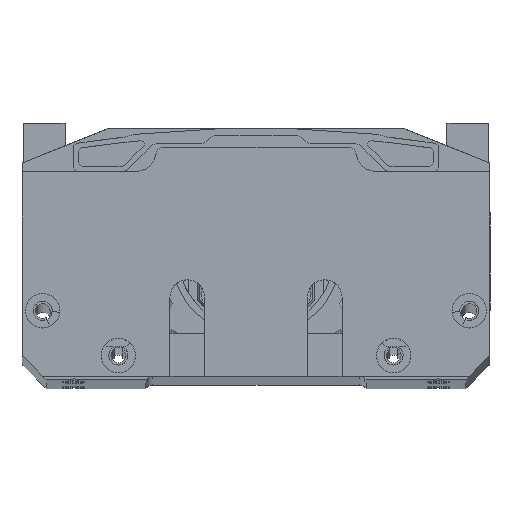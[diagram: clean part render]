
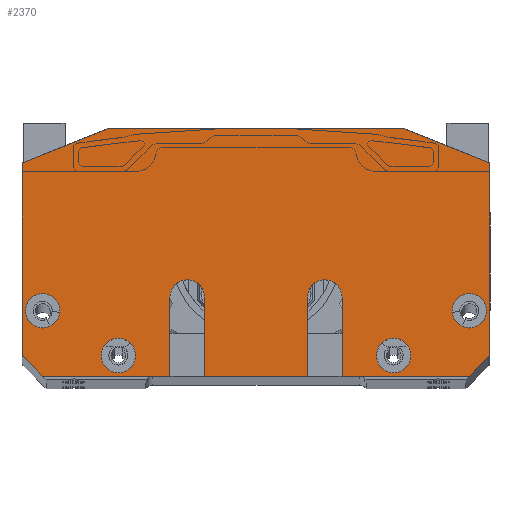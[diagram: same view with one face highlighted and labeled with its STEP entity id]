
A CAD part, top view. The second image highlights one B-rep face of the part: STEP entity #2370.
In plain terms, the highlighted planar face has unit normal (0, 0, 1).
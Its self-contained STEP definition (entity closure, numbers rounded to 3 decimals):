
#2370=ADVANCED_FACE('9',(#3475,#3476,#3477,#3478,#3479),#3051,.T.);
#3051=PLANE('',#19905);
#3475=FACE_BOUND('',#4515,.T.);
#3476=FACE_BOUND('',#4516,.T.);
#3477=FACE_BOUND('',#4517,.T.);
#3478=FACE_BOUND('',#4518,.T.);
#3479=FACE_BOUND('',#4519,.T.);
#4515=EDGE_LOOP('',(#9192,#9193,#9194,#9195,#9196,#9197,#9198,#9199,#9200,
#9201,#9202,#9203,#9204,#9205,#9206,#9207));
#4516=EDGE_LOOP('',(#9208));
#4517=EDGE_LOOP('',(#9209));
#4518=EDGE_LOOP('',(#9210));
#4519=EDGE_LOOP('',(#9211));
#5755=CIRCLE('',#19864,5.);
#5757=CIRCLE('',#19869,5.);
#5775=CIRCLE('',#19901,5.);
#5776=CIRCLE('',#19902,5.);
#5777=CIRCLE('',#19903,5.);
#5778=CIRCLE('',#19904,5.);
#9192=ORIENTED_EDGE('',*,*,#15148,.T.);
#9193=ORIENTED_EDGE('',*,*,#15150,.T.);
#9194=ORIENTED_EDGE('',*,*,#15144,.T.);
#9195=ORIENTED_EDGE('',*,*,#14250,.F.);
#9196=ORIENTED_EDGE('',*,*,#15156,.T.);
#9197=ORIENTED_EDGE('',*,*,#15158,.T.);
#9198=ORIENTED_EDGE('',*,*,#15152,.T.);
#9199=ORIENTED_EDGE('',*,*,#14247,.F.);
#9200=ORIENTED_EDGE('',*,*,#14264,.T.);
#9201=ORIENTED_EDGE('',*,*,#14278,.F.);
#9202=ORIENTED_EDGE('',*,*,#15167,.T.);
#9203=ORIENTED_EDGE('',*,*,#15189,.F.);
#9204=ORIENTED_EDGE('',*,*,#15170,.T.);
#9205=ORIENTED_EDGE('',*,*,#14192,.F.);
#9206=ORIENTED_EDGE('',*,*,#14235,.T.);
#9207=ORIENTED_EDGE('',*,*,#14253,.F.);
#9208=ORIENTED_EDGE('',*,*,#15190,.F.);
#9209=ORIENTED_EDGE('',*,*,#15191,.F.);
#9210=ORIENTED_EDGE('',*,*,#15192,.F.);
#9211=ORIENTED_EDGE('',*,*,#15193,.F.);
#12143=VERTEX_POINT('',#28827);
#12144=VERTEX_POINT('',#28829);
#12172=VERTEX_POINT('',#28908);
#12178=VERTEX_POINT('',#28929);
#12179=VERTEX_POINT('',#28931);
#12180=VERTEX_POINT('',#28934);
#12181=VERTEX_POINT('',#28936);
#12182=VERTEX_POINT('',#28939);
#12189=VERTEX_POINT('',#28960);
#12199=VERTEX_POINT('',#28986);
#12738=VERTEX_POINT('',#32555);
#12740=VERTEX_POINT('',#32561);
#12742=VERTEX_POINT('',#32570);
#12744=VERTEX_POINT('',#32576);
#12753=VERTEX_POINT('',#32601);
#12755=VERTEX_POINT('',#32607);
#12765=VERTEX_POINT('',#32647);
#12766=VERTEX_POINT('',#32649);
#12767=VERTEX_POINT('',#32651);
#12768=VERTEX_POINT('',#32653);
#14192=EDGE_CURVE('',#12143,#12144,#16395,.T.);
#14235=EDGE_CURVE('',#12143,#12172,#16428,.T.);
#14247=EDGE_CURVE('',#12178,#12179,#16439,.T.);
#14250=EDGE_CURVE('',#12180,#12181,#16442,.T.);
#14253=EDGE_CURVE('',#12182,#12172,#16445,.T.);
#14264=EDGE_CURVE('',#12178,#12189,#16455,.T.);
#14278=EDGE_CURVE('',#12199,#12189,#16467,.T.);
#15144=EDGE_CURVE('',#12738,#12181,#16894,.T.);
#15148=EDGE_CURVE('',#12182,#12740,#16898,.T.);
#15150=EDGE_CURVE('',#12740,#12738,#5755,.T.);
#15152=EDGE_CURVE('',#12742,#12179,#16900,.T.);
#15156=EDGE_CURVE('',#12180,#12744,#16904,.T.);
#15158=EDGE_CURVE('',#12744,#12742,#5757,.T.);
#15167=EDGE_CURVE('',#12199,#12753,#16909,.T.);
#15170=EDGE_CURVE('',#12755,#12144,#16912,.T.);
#15189=EDGE_CURVE('',#12755,#12753,#16918,.T.);
#15190=EDGE_CURVE('',#12765,#12765,#5775,.T.);
#15191=EDGE_CURVE('',#12766,#12766,#5776,.T.);
#15192=EDGE_CURVE('',#12767,#12767,#5777,.T.);
#15193=EDGE_CURVE('',#12768,#12768,#5778,.T.);
#16395=LINE('',#28828,#17745);
#16428=LINE('',#28909,#17778);
#16439=LINE('',#28930,#17789);
#16442=LINE('',#28935,#17792);
#16445=LINE('',#28940,#17795);
#16455=LINE('',#28961,#17805);
#16467=LINE('',#28987,#17817);
#16894=LINE('',#32554,#18244);
#16898=LINE('',#32562,#18248);
#16900=LINE('',#32569,#18250);
#16904=LINE('',#32577,#18254);
#16909=LINE('',#32600,#18259);
#16912=LINE('',#32606,#18262);
#16918=LINE('',#32645,#18268);
#17745=VECTOR('',#21961,1.);
#17778=VECTOR('',#22032,1.);
#17789=VECTOR('',#22051,1.);
#17792=VECTOR('',#22054,1.);
#17795=VECTOR('',#22057,1.);
#17805=VECTOR('',#22075,1.);
#17817=VECTOR('',#22095,1.);
#18244=VECTOR('',#23854,1.);
#18248=VECTOR('',#23860,1.);
#18250=VECTOR('',#23870,1.);
#18254=VECTOR('',#23876,1.);
#18259=VECTOR('',#23901,1.);
#18262=VECTOR('',#23906,1.);
#18268=VECTOR('',#23958,1.);
#19864=AXIS2_PLACEMENT_3D('',#32565,#23865,#23866);
#19869=AXIS2_PLACEMENT_3D('',#32580,#23881,#23882);
#19901=AXIS2_PLACEMENT_3D('',#32646,#23959,#23960);
#19902=AXIS2_PLACEMENT_3D('',#32648,#23961,#23962);
#19903=AXIS2_PLACEMENT_3D('',#32650,#23963,#23964);
#19904=AXIS2_PLACEMENT_3D('',#32652,#23965,#23966);
#19905=AXIS2_PLACEMENT_3D('',#32654,#23967,#23968);
#21961=DIRECTION('',(0.,1.,0.));
#22032=DIRECTION('',(0.707,-0.707,0.));
#22051=DIRECTION('',(-1.,0.,0.));
#22054=DIRECTION('',(-1.,0.,0.));
#22057=DIRECTION('',(-1.,0.,0.));
#22075=DIRECTION('',(0.707,0.707,0.));
#22095=DIRECTION('',(0.,-1.,0.));
#23854=DIRECTION('',(0.,-1.,0.));
#23860=DIRECTION('',(0.,1.,0.));
#23865=DIRECTION('',(0.,0.,-1.));
#23866=DIRECTION('',(1.,0.,0.));
#23870=DIRECTION('',(0.,-1.,0.));
#23876=DIRECTION('',(0.,1.,0.));
#23881=DIRECTION('',(0.,0.,-1.));
#23882=DIRECTION('',(-1.,0.,0.));
#23901=DIRECTION('',(-0.928,0.371,0.));
#23906=DIRECTION('',(-0.928,-0.371,0.));
#23958=DIRECTION('',(1.,0.,0.));
#23959=DIRECTION('',(0.,0.,1.));
#23960=DIRECTION('',(1.,0.,0.));
#23961=DIRECTION('',(0.,0.,1.));
#23962=DIRECTION('',(1.,0.,0.));
#23963=DIRECTION('',(0.,0.,1.));
#23964=DIRECTION('',(1.,0.,0.));
#23965=DIRECTION('',(0.,0.,1.));
#23966=DIRECTION('',(1.,0.,0.));
#23967=DIRECTION('',(0.,0.,1.));
#23968=DIRECTION('',(-1.,0.,0.));
#28827=CARTESIAN_POINT('',(-68.,6.,382.));
#28828=CARTESIAN_POINT('',(-68.,0.,382.));
#28829=CARTESIAN_POINT('',(-68.,62.,382.));
#28908=CARTESIAN_POINT('',(-62.,0.,382.));
#28909=CARTESIAN_POINT('',(-49.,-13.,382.));
#28929=CARTESIAN_POINT('',(62.,0.,382.));
#28930=CARTESIAN_POINT('',(68.,0.,382.));
#28931=CARTESIAN_POINT('',(25.,0.,382.));
#28934=CARTESIAN_POINT('',(15.,0.,382.));
#28935=CARTESIAN_POINT('',(68.,0.,382.));
#28936=CARTESIAN_POINT('',(-15.,0.,382.));
#28939=CARTESIAN_POINT('',(-25.,0.,382.));
#28940=CARTESIAN_POINT('',(68.,0.,382.));
#28960=CARTESIAN_POINT('',(68.,6.,382.));
#28961=CARTESIAN_POINT('',(49.,-13.,382.));
#28986=CARTESIAN_POINT('',(68.,62.,382.));
#28987=CARTESIAN_POINT('',(68.,0.,382.));
#32554=CARTESIAN_POINT('',(-15.,23.,382.));
#32555=CARTESIAN_POINT('',(-15.,23.,382.));
#32561=CARTESIAN_POINT('',(-25.,23.,382.));
#32562=CARTESIAN_POINT('',(-25.,23.,382.));
#32565=CARTESIAN_POINT('',(-20.,23.,382.));
#32569=CARTESIAN_POINT('',(25.,23.,382.));
#32570=CARTESIAN_POINT('',(25.,23.,382.));
#32576=CARTESIAN_POINT('',(15.,23.,382.));
#32577=CARTESIAN_POINT('',(15.,23.,382.));
#32580=CARTESIAN_POINT('',(20.,23.,382.));
#32600=CARTESIAN_POINT('',(18.345,81.862,382.));
#32601=CARTESIAN_POINT('',(43.,72.,382.));
#32606=CARTESIAN_POINT('',(-18.345,81.862,382.));
#32607=CARTESIAN_POINT('',(-43.,72.,382.));
#32645=CARTESIAN_POINT('',(68.,72.,382.));
#32646=CARTESIAN_POINT('',(-62.,19.,382.));
#32647=CARTESIAN_POINT('',(-57.,19.,382.));
#32648=CARTESIAN_POINT('',(62.,19.,382.));
#32649=CARTESIAN_POINT('',(67.,19.,382.));
#32650=CARTESIAN_POINT('',(-40.,6.,382.));
#32651=CARTESIAN_POINT('',(-35.,6.,382.));
#32652=CARTESIAN_POINT('',(40.,6.,382.));
#32653=CARTESIAN_POINT('',(45.,6.,382.));
#32654=CARTESIAN_POINT('',(0.,36.,382.));
